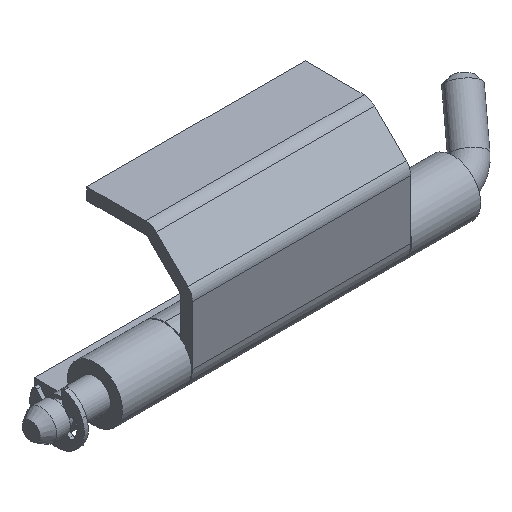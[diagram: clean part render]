
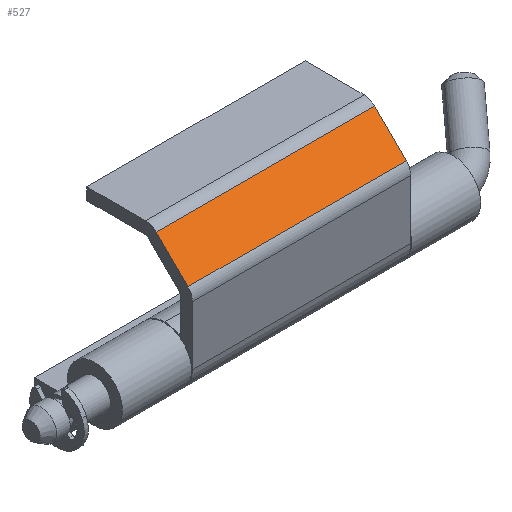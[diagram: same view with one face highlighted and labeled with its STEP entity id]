
A CAD part, isometric view. The second image highlights one B-rep face of the part: STEP entity #527.
In plain terms, the highlighted planar face has unit normal (0, -0.707, 0.707).
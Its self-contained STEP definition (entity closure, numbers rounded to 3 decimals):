
#110 = VECTOR ( 'NONE', #2171, 1000. ) ;
#448 = EDGE_CURVE ( 'NONE', #1076, #1933, #1071, .T. ) ;
#450 = DIRECTION ( 'NONE',  ( -1., 0., 0. ) ) ;
#469 = CARTESIAN_POINT ( 'NONE',  ( 18.1, -2.05, 8.75 ) ) ;
#502 = CARTESIAN_POINT ( 'NONE',  ( -18.1, -8.018, 2.782 ) ) ;
#527 = ADVANCED_FACE ( 'NONE', ( #1207 ), #1892, .F. ) ;
#539 = VERTEX_POINT ( 'NONE', #1628 ) ;
#660 = VECTOR ( 'NONE', #450, 1000. ) ;
#713 = ORIENTED_EDGE ( 'NONE', *, *, #448, .F. ) ;
#815 = ORIENTED_EDGE ( 'NONE', *, *, #2295, .F. ) ;
#834 = AXIS2_PLACEMENT_3D ( 'NONE', #469, #1644, #1421 ) ;
#892 = CARTESIAN_POINT ( 'NONE',  ( -18.1, -2.782, 8.018 ) ) ;
#1071 = LINE ( 'NONE', #2329, #660 ) ;
#1076 = VERTEX_POINT ( 'NONE', #2741 ) ;
#1207 = FACE_OUTER_BOUND ( 'NONE', #2966, .T. ) ;
#1355 = CARTESIAN_POINT ( 'NONE',  ( -18.1, -8.018, 2.782 ) ) ;
#1421 = DIRECTION ( 'NONE',  ( 0., 0.707, 0.707 ) ) ;
#1439 = LINE ( 'NONE', #2076, #2043 ) ;
#1482 = LINE ( 'NONE', #502, #110 ) ;
#1492 = EDGE_CURVE ( 'NONE', #539, #1076, #2562, .T. ) ;
#1545 = DIRECTION ( 'NONE',  ( 1., 0., 0. ) ) ;
#1617 = VERTEX_POINT ( 'NONE', #892 ) ;
#1628 = CARTESIAN_POINT ( 'NONE',  ( 18.1, -2.782, 8.018 ) ) ;
#1644 = DIRECTION ( 'NONE',  ( 0., 0.707, -0.707 ) ) ;
#1750 = ORIENTED_EDGE ( 'NONE', *, *, #2673, .F. ) ;
#1892 = PLANE ( 'NONE',  #834 ) ;
#1933 = VERTEX_POINT ( 'NONE', #1355 ) ;
#2043 = VECTOR ( 'NONE', #1545, 1000. ) ;
#2076 = CARTESIAN_POINT ( 'NONE',  ( 18.1, -2.782, 8.018 ) ) ;
#2171 = DIRECTION ( 'NONE',  ( 0., 0.707, 0.707 ) ) ;
#2295 = EDGE_CURVE ( 'NONE', #1933, #1617, #1482, .T. ) ;
#2329 = CARTESIAN_POINT ( 'NONE',  ( 18.1, -8.018, 2.782 ) ) ;
#2562 = LINE ( 'NONE', #2946, #2843 ) ;
#2579 = ORIENTED_EDGE ( 'NONE', *, *, #1492, .F. ) ;
#2673 = EDGE_CURVE ( 'NONE', #1617, #539, #1439, .T. ) ;
#2734 = DIRECTION ( 'NONE',  ( 0., -0.707, -0.707 ) ) ;
#2741 = CARTESIAN_POINT ( 'NONE',  ( 18.1, -8.018, 2.782 ) ) ;
#2843 = VECTOR ( 'NONE', #2734, 1000. ) ;
#2946 = CARTESIAN_POINT ( 'NONE',  ( 18.1, -2.782, 8.018 ) ) ;
#2966 = EDGE_LOOP ( 'NONE', ( #2579, #1750, #815, #713 ) ) ;
